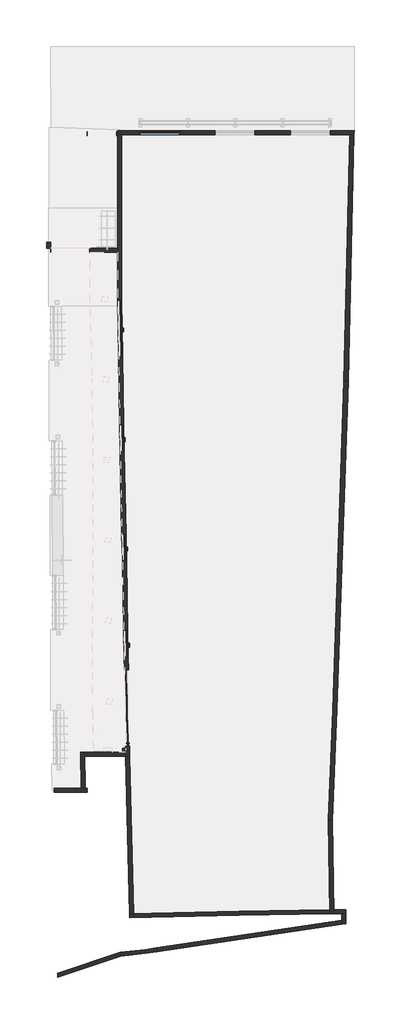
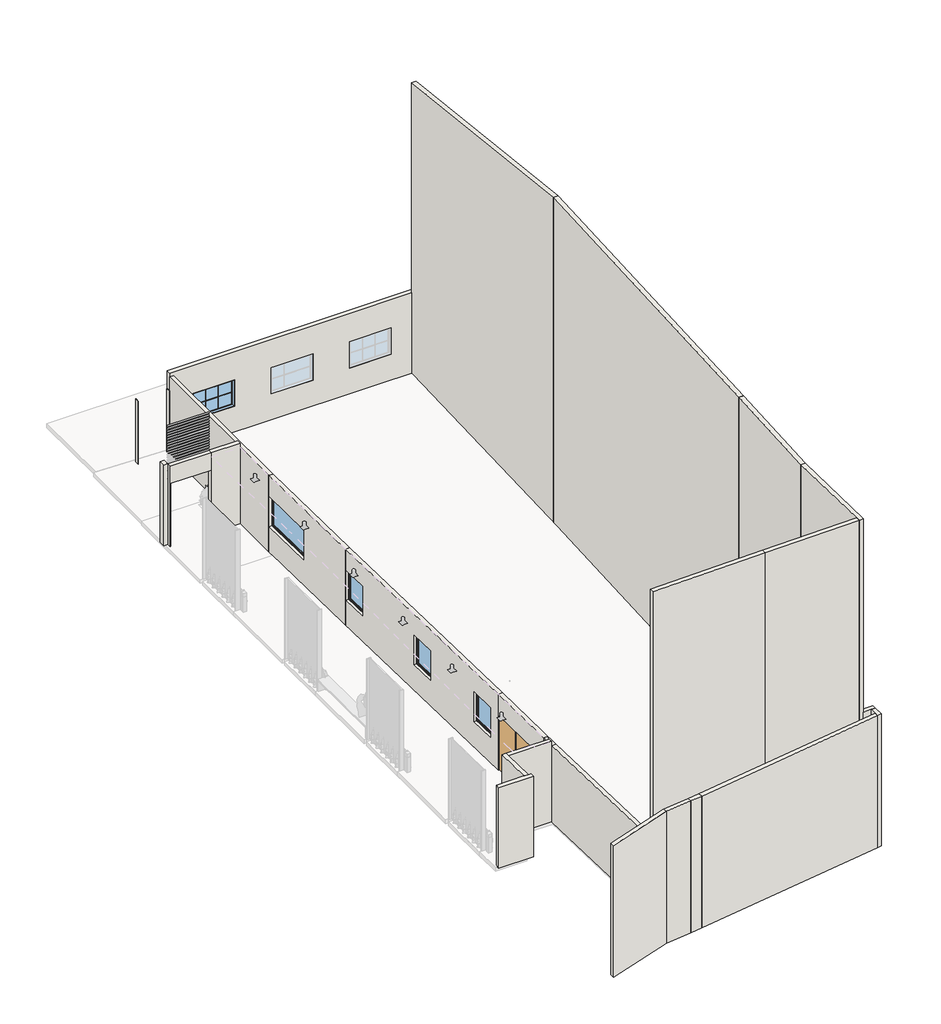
# One storey, part 1 of 2: 26 walls, 5 windows, 1 door.
"""IFC4 building model written with IfcOpenShell, lengths in millimetres."""

from ifc_helpers import new_model, si_unit, origin, place, context, project, spatial, faceted_brep, transform, mapped, element, save
from components import door_1_40_x_2_10_d4d27d32, window_0bf94046, window_e701bfd0, janela_madeira_1_50_x_1_10_0449b646

model = new_model("IFC4")

# Units and contexts
model_context = context("Model", 3, world=origin())
ifc_project = project(units=[si_unit("LENGTHUNIT", "METRE", prefix="MILLI")], contexts=[model_context])

# Site, building, storey
site = spatial("IfcSite", under=ifc_project)
building = spatial("IfcBuilding", under=site)
storey = spatial("IfcBuildingStorey", under=building, Name="Pav. Térreo", Elevation=0.0)

# Door
placement = place(None, origin())
door_1_40_x_2_10_shape = door_1_40_x_2_10_d4d27d32(model_context)
element("IfcDoor", 1, ObjectType="_Produtos_Arq_Bib_3F - Vidro temperado : 1.40 x 2.10", at=placement, inside=storey, context=model_context, shape_type="MappedRepresentation", body=[
    mapped(door_1_40_x_2_10_shape, transform((-1714.0248251, -4979.9375112, 0.0), x_axis=(0.01426837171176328, -0.9998982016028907, 0.0), y_axis=(0.9998982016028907, 0.01426837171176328, 0.0), z_axis=(0.0, 0.0, 1.0))),
])

# Walls
element("IfcWall", 2, ObjectType="Parede 0.15m", at=placement, inside=storey, context=model_context, shape_type="Brep", body=[
    faceted_brep([(-2073.4413307, 16425.2417608, 3050.0), (-2073.4413307, 16425.2417608, 2900.0), (-2073.4413307, 16425.2417608, 0.0), (-1923.4412958, 16425.2417608, 0.0), (6618.7941857, 16425.2417608, 0.0), (6768.8377595, 16425.2417608, 0.0), (6768.8377595, 16425.2417608, 3050.0), (256.3539321, 16425.2417608, 1980.0), (256.3539321, 16425.2417608, 980.0), (-1243.6460679, 16425.2417608, 980.0), (-1243.6460679, 16425.2417608, 1980.0), (3071.3539321, 16425.2417608, 1980.0), (3071.3539321, 16425.2417608, 980.0), (1571.3539321, 16425.2417608, 980.0), (1571.3539321, 16425.2417608, 1980.0), (5881.3539321, 16425.2417608, 1980.0), (5881.3539321, 16425.2417608, 980.0), (4381.3539321, 16425.2417608, 980.0), (4381.3539321, 16425.2417608, 1980.0), (-2073.5436993, 16575.2417608, 0.0), (-2073.5436993, 16575.2417608, 3050.0), (6772.4535626, 16575.2417608, 3050.0), (6772.4535626, 16575.2417608, 0.0), (256.3539321, 16575.2417608, 1980.0), (-1243.6460679, 16575.2417608, 1980.0), (-1243.6460679, 16575.2417608, 980.0), (256.3539321, 16575.2417608, 980.0), (3071.3539321, 16575.2417608, 1980.0), (1571.3539321, 16575.2417608, 1980.0), (1571.3539321, 16575.2417608, 980.0), (3071.3539321, 16575.2417608, 980.0), (5881.3539321, 16575.2417608, 1980.0), (4381.3539321, 16575.2417608, 1980.0), (4381.3539321, 16575.2417608, 980.0), (5881.3539321, 16575.2417608, 980.0), (-2073.5266379, 16550.2417608, 0.0), (6771.8509288, 16550.2417608, 0.0)], [[[0, 1, 2, 3, 4, 5, 6], [7, 8, 9, 10], [11, 12, 13, 14], [15, 16, 17, 18]], [[19, 20, 21, 22], [23, 24, 25, 26], [27, 28, 29, 30], [31, 32, 33, 34]], [[0, 6, 21, 20]], [[5, 4, 3, 2, 35, 36]], [[6, 5, 36, 22, 21]], [[35, 19, 22, 36]], [[8, 7, 23, 26]], [[9, 8, 26, 25]], [[10, 9, 25, 24]], [[7, 10, 24, 23]], [[12, 11, 27, 30]], [[13, 12, 30, 29]], [[14, 13, 29, 28]], [[11, 14, 28, 27]], [[16, 15, 31, 34]], [[17, 16, 34, 33]], [[18, 17, 33, 32]], [[15, 18, 32, 31]], [[0, 20, 19, 35, 2, 1]]]),
])
element("IfcWall", 3, ObjectType="Parede 0.15m", at=placement, inside=storey, context=model_context, shape_type="Brep", body=[
    faceted_brep([(6618.7941857, 16425.2417608, 0.0), (6397.1980983, 7232.4255999, 0.0), (6397.1980983, 7232.4255999, 12329.9990735), (6618.7941857, 16425.2417608, 11009.7278871), (6768.8377595, 16425.2417608, 0.0), (6768.8377595, 16425.2417608, 3050.0), (6768.8377595, 16425.2417608, 11009.2087367), (6547.1350067, 7228.0006319, 12330.1154365), (6547.1350067, 7228.0006319, 0.0), (6743.8304972, 16425.2417608, 0.0), (6522.145522, 7228.7381266, 0.0)], [[[0, 1, 2, 3]], [[4, 5, 6, 7, 8]], [[0, 3, 6, 5, 4, 9]], [[2, 1, 10, 8, 7]], [[1, 0, 9, 10]], [[9, 4, 8, 10]], [[3, 2, 7, 6]]]),
])
element("IfcWall", 4, ObjectType="Parede 0.15m", at=placement, inside=storey, context=model_context, shape_type="Brep", body=[
    faceted_brep([(6397.1980983, 7232.4255999, 0.0), (5968.6691671, -5039.0374148, 0.0), (5968.6691671, -5039.0374148, 12330.0), (6397.1980983, 7232.4255999, 12330.0), (6547.1350067, 7228.0006319, 0.0), (6547.1350067, 7228.0006319, 12330.0), (6118.5691872, -5044.5187239, 12330.0), (6118.5691872, -5044.5187239, 0.0), (6522.145522, 7228.7381266, 0.0), (6093.5858505, -5043.6051724, 0.0)], [[[0, 1, 2, 3]], [[4, 5, 6, 7]], [[3, 2, 6, 5]], [[1, 0, 8, 9]], [[2, 1, 9, 7, 6]], [[0, 3, 5, 4, 8]], [[8, 4, 7, 9]]]),
])
element("IfcWall", 5, ObjectType="Parede 0.15m", at=placement, inside=storey, context=model_context, shape_type="Brep", body=[
    faceted_brep([(5968.6691671, -5039.0374148, 0.0), (5811.2490205, -9158.6577044, 0.0), (5811.2490205, -9158.6577044, 12330.0), (5968.6691671, -5039.0374148, 12330.0), (6118.5691872, -5044.5187239, 0.0), (6118.5691872, -5044.5187239, 12330.0), (5961.2990317, -9160.2138103, 12330.0), (5961.2990317, -9160.2138103, 0.0), (6093.5858505, -5043.6051724, 0.0), (5936.2906965, -9159.9544594, 0.0)], [[[0, 1, 2, 3]], [[4, 5, 6, 7]], [[3, 2, 6, 5]], [[1, 0, 8, 9]], [[0, 3, 5, 4, 8]], [[8, 4, 7, 9]], [[2, 1, 9, 7, 6]]]),
])
element("IfcWall", 6, ObjectType="Parede 0.15m", at=placement, inside=storey, context=model_context, shape_type="Brep", body=[
    faceted_brep([(5811.2490205, -9158.6577044, 0.0), (5869.787439, -12512.3214501, 0.0), (5872.4052999, -12662.2986044, 0.0), (5872.4052999, -12662.2986044, 12330.0), (5869.787439, -12512.3214501, 12330.0), (5811.2490205, -9158.6577044, 12330.0), (5961.2990317, -9160.2138103, 0.0), (5961.2990317, -9160.2138103, 12330.0), (6022.3824542, -12659.6807434, 12330.0), (6022.3824542, -12659.6807434, 0.0), (5936.2906965, -9159.9544594, 0.0), (5997.3862618, -12660.1170536, 0.0)], [[[0, 1, 2, 3, 4, 5]], [[6, 7, 8, 9]], [[5, 4, 3, 8, 7]], [[2, 1, 0, 10, 11]], [[0, 5, 7, 6, 10]], [[10, 6, 9, 11]], [[3, 2, 11, 9, 8]]]),
])
element("IfcWall", 7, ObjectType="Parede 0.15m", at=placement, inside=storey, context=model_context, shape_type="Brep", body=[
    faceted_brep([(5869.787439, -12512.3214501, 0.0), (2459.854444, -12571.8420519, 0.0), (2459.854444, -12571.8420519, 12330.0), (5869.787439, -12512.3214501, 12330.0), (5872.4052999, -12662.2986044, 0.0), (5872.4052999, -12662.2986044, 12330.0), (2462.9246594, -12721.8113103, 12330.0), (2462.9246594, -12721.8113103, 0.0), (5871.9689898, -12637.302412, 0.0), (2462.4129569, -12696.8164339, 0.0)], [[[0, 1, 2, 3]], [[4, 5, 6, 7]], [[3, 2, 6, 5]], [[1, 0, 8, 9]], [[0, 3, 5, 4, 8]], [[8, 4, 7, 9]], [[2, 1, 9, 7, 6]]]),
])
element("IfcWall", 8, ObjectType="Parede 0.15m", at=placement, inside=storey, context=model_context, shape_type="Brep", body=[
    faceted_brep([(2459.854444, -12571.8420519, 0.0), (-1475.2624299, -12664.2775737, 0.0), (-1625.2210638, -12667.8000877, 0.0), (-1625.2210638, -12667.8000877, 2900.0), (-1625.2210638, -12667.8000877, 12330.0), (2459.854444, -12571.8420519, 12330.0), (2462.9246594, -12721.8113103, 0.0), (2462.9246594, -12721.8113103, 12330.0), (-1621.6985497, -12817.7587217, 12330.0), (-1621.6985497, -12817.7587217, 0.0), (2462.4129569, -12696.8164339, 0.0), (-1622.2856354, -12792.765616, 0.0)], [[[0, 1, 2, 3, 4, 5]], [[6, 7, 8, 9]], [[5, 4, 8, 7]], [[2, 1, 0, 10, 11]], [[0, 5, 7, 6, 10]], [[10, 6, 9, 11]], [[4, 3, 2, 11, 9, 8]]]),
])
element("IfcWall", 9, ObjectType="Parede 0.15m", at=placement, inside=storey, context=model_context, shape_type="Brep", body=[
    faceted_brep([(-1475.2624299, -12664.2775737, 0.0), (-1613.0939141, -6796.5874343, 0.0), (-1613.0939141, -6796.5874343, 2900.0), (-1475.2624299, -12664.2775737, 2900.0), (-1625.2210638, -12667.8000877, 0.0), (-1625.2210638, -12667.8000877, 2900.0), (-1763.0687812, -6799.4188794, 2900.0), (-1763.0687812, -6799.4188794, 0.0), (-1600.2279581, -12667.2130021, 0.0), (-1738.07297, -6798.9469719, 0.0)], [[[0, 1, 2, 3]], [[4, 5, 6, 7]], [[1, 0, 8, 9]], [[0, 3, 5, 4, 8]], [[8, 4, 7, 9]], [[2, 1, 9, 7, 6]], [[3, 2, 6, 5]]]),
])
element("IfcWall", 10, ObjectType="Parede 0.15m", at=placement, inside=storey, context=model_context, shape_type="Brep", body=[
    faceted_brep([(-1613.0939141, -6796.5874343, 2900.0), (-1613.0939141, -6796.5874343, 0.0), (-1618.7000303, -6403.7223206, 0.0), (-1618.7000303, -6403.7223206, 2100.0), (-1659.3648897, -3554.0124461, 2100.0), (-1659.3648897, -3554.0124461, 0.0), (-1659.4995223, -3544.5776676, 0.0), (-1659.4995223, -3544.5776676, 2900.0), (-1763.0687812, -6799.4188794, 0.0), (-1763.0687812, -6799.4188794, 2900.0), (-1809.4778491, -3547.1666601, 2900.0), (-1809.4778491, -3547.1666601, 0.0), (-1809.3496199, -3556.1527018, 0.0), (-1809.3496199, -3556.1527018, 2100.0), (-1768.6847605, -6405.8625764, 2100.0), (-1768.6847605, -6405.8625764, 0.0), (-1767.5474338, -6485.5641005, 0.0), (-1765.4069601, -6635.5641005, 0.0), (-1763.2664865, -6785.5641005, 0.0), (-1738.07297, -6798.9469719, 0.0), (-1743.6873055, -6405.5058671, 0.0), (-1784.4814613, -3546.7351613, 0.0), (-1784.3521649, -3555.7959925, 0.0)], [[[0, 1, 2, 3, 4, 5, 6, 7]], [[8, 9, 10, 11, 12, 13, 14, 15, 16, 17, 18]], [[1, 19, 20, 2]], [[21, 6, 5, 22]], [[1, 0, 9, 8, 19]], [[19, 8, 18, 17, 16, 15, 20]], [[11, 21, 22, 12]], [[7, 6, 21, 11, 10]], [[0, 7, 10, 9]], [[14, 3, 2, 20, 15]], [[3, 14, 13, 4]], [[4, 13, 12, 22, 5]]]),
])
element("IfcWall", 11, ObjectType="Parede 0.15m", at=placement, inside=storey, context=model_context, shape_type="Brep", body=[
    faceted_brep([(-1659.4995223, -3544.5776676, 0.0), (-1845.1498276, 5620.9067692, 0.0), (-1845.1498276, 5620.9067692, 2900.0), (-1659.4995223, -3544.5776676, 2900.0), (-1668.9048949, -3080.2380286, 980.0), (-1668.9048949, -3080.2380286, 2100.0), (-1689.1561139, -2080.4431055, 2100.0), (-1689.1561139, -2080.4431055, 980.0), (-1741.8092833, 519.0236944, 980.0), (-1741.8092833, 519.0236944, 2100.0), (-1762.0605023, 1518.8186174, 2100.0), (-1762.0605023, 1518.8186174, 980.0), (-1824.4342569, 4598.1869804, 980.0), (-1824.4342569, 4598.1869804, 2100.0), (-1844.6854759, 5597.9819034, 2100.0), (-1844.6854759, 5597.9819034, 980.0), (-1995.1255994, 5618.1916348, 0.0), (-1809.4778491, -3547.1666601, 0.0), (-1809.4778491, -3547.1666601, 2900.0), (-1995.1255994, 5618.1916348, 2900.0), (-1818.8741333, -3083.2757114, 2100.0), (-1818.8741333, -3083.2757114, 980.0), (-1839.1253523, -2083.4807884, 980.0), (-1839.1253523, -2083.4807884, 2100.0), (-1891.7785218, 515.9860115, 2100.0), (-1891.7785218, 515.9860115, 980.0), (-1912.0297408, 1515.7809346, 980.0), (-1912.0297408, 1515.7809346, 2100.0), (-1974.4034953, 4595.1492975, 2100.0), (-1974.4034953, 4595.1492975, 980.0), (-1994.6547143, 5594.9442205, 980.0), (-1994.6547143, 5594.9442205, 2100.0), (-1784.4814613, -3546.7351613, 0.0), (-1970.1296374, 5618.6441572, 0.0)], [[[0, 1, 2, 3], [4, 5, 6, 7], [8, 9, 10, 11], [12, 13, 14, 15]], [[16, 17, 18, 19], [20, 21, 22, 23], [24, 25, 26, 27], [28, 29, 30, 31]], [[1, 0, 32, 33]], [[0, 3, 18, 17, 32]], [[17, 16, 33, 32]], [[2, 1, 33, 16, 19]], [[3, 2, 19, 18]], [[4, 21, 20, 5]], [[5, 20, 23, 6]], [[6, 23, 22, 7]], [[21, 4, 7, 22]], [[8, 25, 24, 9]], [[9, 24, 27, 10]], [[10, 27, 26, 11]], [[25, 8, 11, 26]], [[12, 29, 28, 13]], [[13, 28, 31, 14]], [[14, 31, 30, 15]], [[29, 12, 15, 30]]]),
])
element("IfcWall", 12, ObjectType="Parede 0.15m", at=placement, inside=storey, context=model_context, shape_type="Brep", body=[
    faceted_brep([(-1845.1498276, 5620.9067691, 0.0), (-1919.2373188, 10265.1815044, 0.0), (-1919.2373188, 10265.1815044, 2900.0), (-1845.1498276, 5620.9067691, 2900.0), (-1885.5293427, 8152.1513682, 980.0), (-1885.5293427, 8152.1513682, 2100.0), (-1918.8656906, 10241.8854871, 2100.0), (-1918.8656906, 10241.8854871, 980.0), (-2069.2365023, 10263.933967, 0.0), (-1995.1255994, 5618.1916347, 0.0), (-1995.1255994, 5618.1916347, 2900.0), (-2069.2365023, 10263.933967, 2900.0), (-2035.5102604, 8149.7588073, 2100.0), (-2035.5102604, 8149.7588073, 980.0), (-2068.8466082, 10239.4929263, 980.0), (-2068.8466082, 10239.4929263, 2100.0), (-1970.1296374, 5618.6441571, 0.0), (-2044.2366384, 10264.1418899, 0.0)], [[[0, 1, 2, 3], [4, 5, 6, 7]], [[8, 9, 10, 11], [12, 13, 14, 15]], [[1, 0, 16, 17]], [[2, 1, 17, 8, 11]], [[0, 3, 10, 9, 16]], [[9, 8, 17, 16]], [[3, 2, 11, 10]], [[4, 13, 12, 5]], [[5, 12, 15, 6]], [[6, 15, 14, 7]], [[13, 4, 7, 14]]]),
])
element("IfcWall", 13, ObjectType="Parede 0.15m", at=placement, inside=storey, context=model_context, shape_type="Brep", body=[
    faceted_brep([(-1919.2373188, 10265.1815044, 0.0), (-1923.4412958, 16425.2417608, 0.0), (-1923.4412958, 16425.2417608, 2900.0), (-1919.2373188, 10265.1815044, 2900.0), (-2069.2365023, 10263.933967, 0.0), (-2069.2365023, 10263.933967, 2900.0), (-2073.4413307, 16425.2417608, 2900.0), (-2073.4413307, 16425.2417608, 0.0), (-2044.2366384, 10264.1418899, 0.0), (-2048.4413249, 16425.2417608, 0.0)], [[[0, 1, 2, 3]], [[4, 5, 6, 7]], [[1, 0, 8, 9]], [[0, 3, 5, 4, 8]], [[8, 4, 7, 9]], [[3, 2, 6, 5]], [[1, 9, 7, 6, 2]]]),
])
element("IfcWall", 14, ObjectType="Parede 0.15m", at=placement, inside=storey, context=model_context, shape_type="Brep", body=[
    faceted_brep([(-4308.0968162, -15038.5876005, 0.0), (-1951.0258032, -14249.5320281, 0.0), (-1951.0258032, -14249.5320281, 5000.0), (-4308.0968162, -15038.5876005, 5000.0), (-4308.0968162, -15038.5876005, 4500.0), (-4311.0114416, -14881.3815674, 0.0), (-4311.0114416, -14881.3815674, 5000.0), (-1983.639124, -14102.2679616, 5000.0), (-1983.639124, -14102.2679616, 0.0), (-4310.5256707, -14907.5825729, 0.0), (-1978.2035705, -14126.8119727, 0.0)], [[[0, 1, 2, 3, 4]], [[5, 6, 7, 8]], [[3, 2, 7, 6]], [[1, 0, 9, 10]], [[0, 4, 3, 6, 5, 9]], [[9, 5, 8, 10]], [[2, 1, 10, 8, 7]]]),
])
element("IfcWall", 15, ObjectType="Parede 0.15m", at=placement, inside=storey, context=model_context, shape_type="Brep", body=[
    faceted_brep([(-1951.0258032, -14249.5320281, 0.0), (-1019.3019324, -14143.9356617, 0.0), (-1019.3019324, -14143.9356617, 5000.0), (-1951.0258032, -14249.5320281, 5000.0), (-1983.639124, -14102.2679616, 0.0), (-1983.639124, -14102.2679616, 5000.0), (-1037.8527929, -13995.0778346, 5000.0), (-1037.8527929, -13995.0778346, 0.0), (-1978.2035705, -14126.8119727, 0.0), (-1034.7609829, -14019.8874725, 0.0)], [[[0, 1, 2, 3]], [[4, 5, 6, 7]], [[3, 2, 6, 5]], [[1, 0, 8, 9]], [[0, 3, 5, 4, 8]], [[8, 4, 7, 9]], [[2, 1, 9, 7, 6]]]),
])
element("IfcWall", 16, ObjectType="Parede 0.15m", at=placement, inside=storey, context=model_context, shape_type="Brep", body=[
    faceted_brep([(-1019.3019324, -14143.9356617, 0.0), (-595.9253857, -14086.3820167, 0.0), (-595.9253857, -14086.3820167, 5000.0), (-1019.3019324, -14143.9356617, 5000.0), (-1037.8527929, -13995.0778346, 0.0), (-1037.8527929, -13995.0778346, 5000.0), (-617.1268141, -13937.8845069, 5000.0), (-617.1268141, -13937.8845069, 0.0), (-1034.7609829, -14019.8874725, 0.0), (-613.5932427, -13962.6340918, 0.0)], [[[0, 1, 2, 3]], [[4, 5, 6, 7]], [[3, 2, 6, 5]], [[1, 0, 8, 9]], [[0, 3, 5, 4, 8]], [[8, 4, 7, 9]], [[2, 1, 9, 7, 6]]]),
])
element("IfcWall", 17, ObjectType="Parede 0.15m", at=placement, inside=storey, context=model_context, shape_type="Brep", body=[
    faceted_brep([(-595.9253857, -14086.3820167, 0.0), (6308.3014503, -13053.3758302, 0.0), (6308.3014503, -13053.3758302, 5000.0), (-595.9253857, -14086.3820167, 5000.0), (-617.1268141, -13937.8845069, 0.0), (-617.1268141, -13937.8845069, 5000.0), (6308.3014503, -12901.7061756, 5000.0), (6308.3014503, -12901.7061756, 0.0), (-613.5932427, -13962.6340918, 0.0), (6308.3014503, -12926.9844514, 0.0)], [[[0, 1, 2, 3]], [[4, 5, 6, 7]], [[3, 2, 6, 5]], [[1, 0, 8, 9]], [[0, 3, 5, 4, 8]], [[8, 4, 7, 9]], [[2, 1, 9, 7, 6]]]),
])
element("IfcWall", 18, ObjectType="Parede 0.15m", at=placement, inside=storey, context=model_context, shape_type="Brep", body=[
    faceted_brep([(6458.3014503, -13030.9329221, 0.0), (6458.3014503, -12662.8773987, 0.0), (6458.3014503, -12662.8773987, 5000.0), (6458.3014503, -13030.9329221, 5000.0), (6308.3014503, -13053.3758302, 0.0), (6308.3014503, -13053.3758302, 5000.0), (6308.3014503, -12901.7061756, 5000.0), (6308.3014503, -12662.8773987, 5000.0), (6308.3014503, -12662.8773987, 0.0), (6308.3014503, -12901.7061756, 0.0), (6333.3014503, -13049.6353455, 0.0), (6333.3014503, -12662.8773987, 0.0)], [[[0, 1, 2, 3]], [[4, 5, 6, 7, 8, 9]], [[3, 2, 7, 6, 5]], [[1, 0, 10, 11]], [[0, 3, 5, 4, 10]], [[10, 4, 9, 8, 11]], [[2, 1, 11, 8, 7]]]),
])
element("IfcWall", 19, ObjectType="Parede 0.15m", at=placement, inside=storey, context=model_context, shape_type="Brep", body=[
    faceted_brep([(6458.3014503, -12512.8773987, 0.0), (6023.3014503, -12512.8773987, 0.0), (6023.3014503, -12512.8773987, 5000.0), (6458.3014503, -12512.8773987, 5000.0), (6458.3014503, -12662.8773987, 0.0), (6458.3014503, -12662.8773987, 5000.0), (6308.3014503, -12662.8773987, 5000.0), (6023.3014503, -12662.8773987, 5000.0), (6023.3014503, -12662.8773987, 0.0), (6308.3014503, -12662.8773987, 0.0), (6023.3014503, -12637.8773987, 0.0), (6458.3014503, -12637.8773987, 0.0)], [[[0, 1, 2, 3]], [[4, 5, 6, 7, 8, 9]], [[2, 1, 10, 8, 7]], [[3, 2, 7, 6, 5]], [[1, 0, 11, 10]], [[0, 3, 5, 4, 11]], [[11, 4, 9, 8, 10]]]),
])
element("IfcWall", 20, ObjectType="Parede 0.15m", at=placement, inside=storey, context=model_context, shape_type="Brep", body=[
    faceted_brep([(-3109.8194631, 12035.2417838, 0.0), (-3109.8194631, 12035.2417838, 3050.0), (-4579.6936307, 12035.2417838, 3050.0), (-4579.6936307, 12035.2417838, 0.0), (-4569.6128062, 12035.2417838, 0.0), (-4569.6128062, 12035.2417838, 2400.0), (-3119.6128062, 12035.2417838, 2400.0), (-3119.6128062, 12035.2417838, 0.0), (-3109.8194631, 12185.2417838, 3050.0), (-3109.8194631, 12185.2417838, 0.0), (-3119.6128062, 12185.2417838, 0.0), (-3119.6128062, 12185.2417838, 2400.0), (-4569.6128062, 12185.2417838, 2400.0), (-4569.6128062, 12185.2417838, 0.0), (-4579.4061493, 12185.2417838, 0.0), (-4580.6188123, 12185.2417838, 0.0), (-4580.6188123, 12185.2417838, 3050.0), (-4579.4061493, 12185.2417838, 3050.0), (-3109.8194631, 12160.2417838, 0.0), (-3119.6128062, 12160.2417838, 0.0), (-4580.4646154, 12160.2417838, 0.0), (-4569.6128062, 12160.2417838, 0.0)], [[[0, 1, 2, 3, 4, 5, 6, 7]], [[8, 9, 10, 11, 12, 13, 14, 15, 16, 17]], [[1, 0, 18, 9, 8]], [[2, 1, 8, 17, 16]], [[18, 0, 7, 19]], [[3, 20, 21, 4]], [[3, 2, 16, 15, 20]], [[9, 18, 19, 10]], [[20, 15, 14, 13, 21]], [[6, 11, 10, 19, 7]], [[11, 6, 5, 12]], [[12, 5, 4, 21, 13]]]),
])
element("IfcWall", 21, ObjectType="Parede 0.15m", at=placement, inside=storey, context=model_context, shape_type="Brep", body=[
    faceted_brep([(-4579.4061493, 12185.2417838, 0.0), (-4579.4061493, 12409.0455034, 0.0), (-4579.4061493, 12409.0455034, 3050.0), (-4579.4061493, 12185.2417838, 3050.0), (-4729.4061493, 12185.2417838, 0.0), (-4729.4061493, 12185.2417838, 3050.0), (-4729.4061493, 12409.4325847, 3050.0), (-4729.4061493, 12409.4325847, 0.0), (-4580.6188123, 12185.2417838, 3050.0), (-4580.6188123, 12185.2417838, 0.0), (-4704.4061493, 12185.2417838, 0.0), (-4704.4061493, 12409.3680711, 0.0)], [[[0, 1, 2, 3]], [[4, 5, 6, 7]], [[3, 2, 6, 5, 8]], [[1, 0, 9, 10, 11]], [[0, 3, 8, 5, 4, 10, 9]], [[10, 4, 7, 11]], [[2, 1, 11, 7, 6]]]),
])
element("IfcWall", 22, ObjectType="Parede 0.15m", at=placement, inside=storey, context=model_context, shape_type="Brep", body=[
    faceted_brep([(-1765.4069601, -6635.5641005, 0.0), (-3310.8081076, -6635.5641005, 0.0), (-3310.8081076, -6635.5641005, 3050.0), (-1765.4069601, -6635.5641005, 3050.0), (-1763.2664865, -6785.5641005, 0.0), (-1763.2664865, -6785.5641005, 3050.0), (-3308.1898479, -6785.5641005, 3050.0), (-3308.1898479, -6785.5641005, 0.0), (-1763.6232321, -6760.5641005, 0.0), (-3308.6262245, -6760.5641005, 0.0)], [[[0, 1, 2, 3]], [[4, 5, 6, 7]], [[3, 2, 6, 5]], [[1, 0, 8, 9]], [[0, 3, 5, 4, 8]], [[8, 4, 7, 9]], [[2, 1, 9, 7, 6]]]),
])
element("IfcWall", 23, ObjectType="Parede 0.15m", at=placement, inside=storey, context=model_context, shape_type="Brep", body=[
    faceted_brep([(-3460.8309568, -6635.5641005, 0.0), (-3437.4008168, -7977.8759228, 0.0), (-3437.4008168, -7977.8759228, 3050.0), (-3460.8309568, -6635.5641005, 3050.0), (-3310.8081076, -6635.5641005, 0.0), (-3310.8081076, -6635.5641005, 3050.0), (-3308.1898479, -6785.5641005, 3050.0), (-3287.3779676, -7977.8759228, 3050.0), (-3287.3779676, -7977.8759228, 0.0), (-3308.1898479, -6785.5641005, 0.0), (-3335.8119158, -6635.5641005, 0.0), (-3312.3817758, -7977.8759228, 0.0)], [[[0, 1, 2, 3]], [[4, 5, 6, 7, 8, 9]], [[3, 2, 7, 6, 5]], [[1, 0, 10, 11]], [[0, 3, 5, 4, 10]], [[10, 4, 9, 8, 11]], [[2, 1, 11, 8, 7]]]),
])
element("IfcWall", 24, ObjectType="Parede 0.15m", at=placement, inside=storey, context=model_context, shape_type="Brep", body=[
    faceted_brep([(-4437.3261063, -8127.8759228, 0.0), (-3200.0614749, -8127.8759228, 0.0), (-3200.0614749, -8127.8759228, 3050.0), (-4437.3261063, -8127.8759228, 3050.0), (-4440.166001, -7977.8759228, 0.0), (-4440.166001, -7977.8759228, 3050.0), (-3437.4008168, -7977.8759228, 3050.0), (-3287.3779676, -7977.8759228, 3050.0), (-3200.0614749, -7977.8759228, 3050.0), (-3200.0614749, -7977.8759228, 0.0), (-3287.3779676, -7977.8759228, 0.0), (-3437.4008168, -7977.8759228, 0.0), (-3200.0614749, -8002.8759228, 0.0), (-4439.6926852, -8002.8759228, 0.0)], [[[0, 1, 2, 3]], [[4, 5, 6, 7, 8, 9, 10, 11]], [[2, 1, 12, 9, 8]], [[3, 2, 8, 7, 6, 5]], [[1, 0, 13, 12]], [[0, 3, 5, 4, 13]], [[13, 4, 11, 10, 9, 12]]]),
])
element("IfcWall", 25, ObjectType="Parede 0.15m", at=placement, inside=storey, context=model_context, shape_type="Brep", body=[
    faceted_brep([(-1874.5605234, -6635.5641005, 0.0), (-1765.4069601, -6635.5641005, 0.0), (-1765.4069601, -6635.5641005, 3050.0), (-1874.5605234, -6635.5641005, 3050.0), (-1874.5605234, -6485.5641005, 0.0), (-1874.5605234, -6485.5641005, 3050.0), (-1767.5474338, -6485.5641005, 3050.0), (-1767.5474338, -6485.5641005, 0.0), (-1874.5605234, -6510.5641005, 0.0), (-1767.1906882, -6510.5641005, 0.0)], [[[0, 1, 2, 3]], [[4, 5, 6, 7]], [[3, 2, 6, 5]], [[0, 3, 5, 4, 8]], [[1, 0, 8, 9]], [[8, 4, 7, 9]], [[2, 1, 9, 7, 6]]]),
])
element("IfcWall", 26, ObjectType="Parede 0.15m", at=placement, inside=storey, context=model_context, shape_type="Brep", body=[
    faceted_brep([(-3109.8194631, 12035.2417838, 0.0), (-2070.445344, 12035.2417838, 0.0), (-2070.445344, 12035.2417838, 3050.0), (-3109.8194631, 12035.2417838, 3050.0), (-3109.8194631, 12185.2417838, 0.0), (-3109.8194631, 12185.2417838, 3050.0), (-2070.5477125, 12185.2417838, 3050.0), (-2070.5477125, 12185.2417838, 0.0), (-3109.8194631, 12160.2417838, 0.0), (-2070.5306511, 12160.2417838, 0.0)], [[[0, 1, 2, 3]], [[4, 5, 6, 7]], [[3, 2, 6, 5]], [[0, 3, 5, 4, 8]], [[1, 0, 8, 9]], [[8, 4, 7, 9]], [[2, 1, 9, 7, 6]]]),
])
element("IfcWall", 27, ObjectType="Parede 0.15m", at=placement, inside=storey, context=model_context, shape_type="Brep", body=[
    faceted_brep([(-2073.420857, 16395.2417608, 0.0), (-2073.420857, 16395.2417608, 2400.0), (-2107.8650427, 16395.2417608, 2400.0), (-2107.8650427, 16395.2417608, 0.0), (-2073.5232256, 16545.2417608, 2400.0), (-2073.5232256, 16545.2417608, 0.0), (-2107.8650427, 16545.2417608, 0.0), (-2107.8650427, 16545.2417608, 2400.0), (-2073.5061642, 16520.2417608, 0.0), (-2107.8650427, 16520.2417608, 0.0)], [[[0, 1, 2, 3]], [[4, 5, 6, 7]], [[1, 4, 7, 2]], [[8, 0, 3, 9]], [[5, 8, 9, 6]], [[1, 0, 8, 5, 4]], [[3, 2, 7, 6, 9]]]),
    faceted_brep([(-3208.5252501, 16395.2417608, 2400.0), (-3208.5252501, 16395.2417608, 0.0), (-3207.8650427, 16395.2417608, 0.0), (-3207.8650427, 16395.2417608, 2400.0), (-3208.5252501, 16545.2417608, 0.0), (-3208.5252501, 16545.2417608, 2400.0), (-3207.8650427, 16545.2417608, 2400.0), (-3207.8650427, 16545.2417608, 0.0), (-3208.5252501, 16520.2417608, 0.0), (-3207.8650427, 16520.2417608, 0.0)], [[[0, 1, 2, 3]], [[4, 5, 6, 7]], [[5, 0, 3, 6]], [[1, 8, 9, 2]], [[8, 4, 7, 9]], [[1, 0, 5, 4, 8]], [[3, 2, 9, 7, 6]]]),
])

# Windows
window_shape = window_0bf94046(model_context)
element("IfcWindow", 28, ObjectType="Janela maxim-ar - 1 Painel : J3 - Janela maxim-ar - 1 Painel", at=placement, inside=storey, context=model_context, shape_type="MappedRepresentation", body=[
    mapped(window_shape, transform((-1754.0151236, -2581.8594085, 330.0), x_axis=(-0.020251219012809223, 0.9997949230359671, 0.0), y_axis=(-0.9997949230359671, -0.020251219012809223, 0.0), z_axis=(0.0, 0.0, 1.0))),
])
element("IfcWindow", 29, ObjectType="Janela maxim-ar - 1 Painel : J3 - Janela maxim-ar - 1 Painel", at=placement, inside=storey, context=model_context, shape_type="MappedRepresentation", body=[
    mapped(window_shape, transform((-1826.919512, 1017.4023145, 330.0), x_axis=(-0.020251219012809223, 0.9997949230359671, 0.0), y_axis=(-0.9997949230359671, -0.020251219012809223, 0.0), z_axis=(0.0, 0.0, 1.0))),
])
element("IfcWindow", 30, ObjectType="Janela maxim-ar - 1 Painel : J3 - Janela maxim-ar - 1 Painel", at=placement, inside=storey, context=model_context, shape_type="MappedRepresentation", body=[
    mapped(window_shape, transform((-1909.5444856, 5096.5656004, 330.0), x_axis=(-0.020251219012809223, 0.9997949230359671, 0.0), y_axis=(-0.9997949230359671, -0.020251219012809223, 0.0), z_axis=(0.0, 0.0, 1.0))),
])
window_2_shape = window_e701bfd0(model_context)
element("IfcWindow", 31, ObjectType="Janela maxim-ar - 1 Painel : J2 - Janela maxim-ar - 1 Painel", at=placement, inside=storey, context=model_context, shape_type="MappedRepresentation", body=[
    mapped(window_2_shape, transform((-1977.1879755, 9195.8221472, 330.0), x_axis=(-0.01595040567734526, 0.9998727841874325, 0.0), y_axis=(-0.9998727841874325, -0.01595040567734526, 0.0), z_axis=(0.0, 0.0, 1.0))),
])
janela_madeira_1_50_x_1_10_shape = janela_madeira_1_50_x_1_10_0449b646(model_context)
element("IfcWindow", 32, ObjectType="Janela Madeira : 1.50 x 1.10", at=placement, inside=storey, context=model_context, shape_type="MappedRepresentation", body=[
    mapped(janela_madeira_1_50_x_1_10_shape, transform((-493.6460679, 16500.2417608, 0.0), x_axis=(1.0, 0.0, 0.0), y_axis=(0.0, 1.0, 0.0), z_axis=(0.0, 0.0, 1.0))),
])

save(model, "model.ifc")
